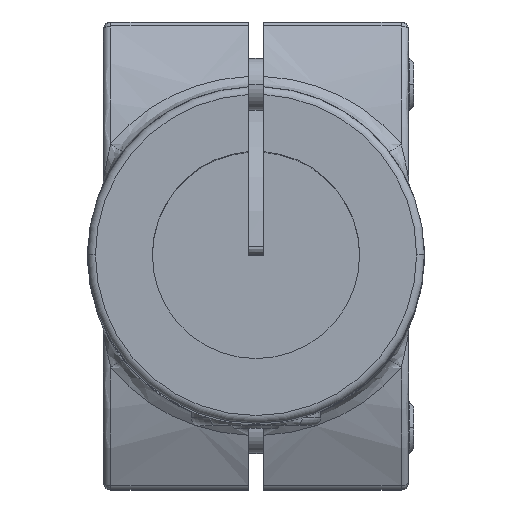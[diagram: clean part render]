
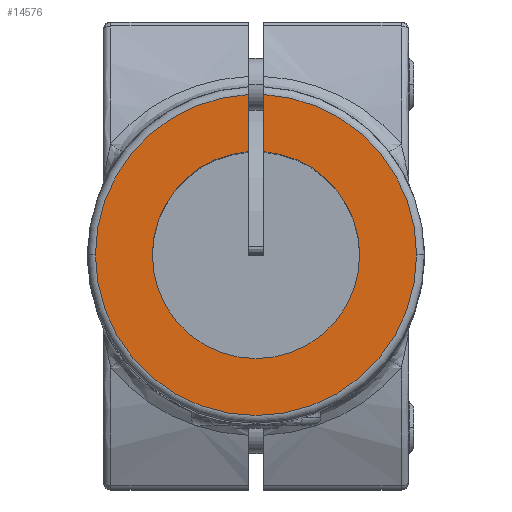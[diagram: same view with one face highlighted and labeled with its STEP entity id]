
A CAD part, top view. The second image highlights one B-rep face of the part: STEP entity #14576.
In plain terms, the highlighted planar face has unit normal (0, 0, 1) as drawn and (0, 0, -1) by its records, which use the part's own axes.
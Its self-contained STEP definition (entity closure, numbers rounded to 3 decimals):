
#93 = ORIENTED_EDGE ( 'NONE', *, *, #14840, .T. ) ;
#459 = FACE_OUTER_BOUND ( 'NONE', #15714, .T. ) ;
#463 = EDGE_CURVE ( 'NONE', #8751, #1594, #4274, .T. ) ;
#583 = ORIENTED_EDGE ( 'NONE', *, *, #12897, .F. ) ;
#612 = CARTESIAN_POINT ( 'NONE',  ( 0., 0., 0. ) ) ;
#1594 = VERTEX_POINT ( 'NONE', #5561 ) ;
#1637 = AXIS2_PLACEMENT_3D ( 'NONE', #8587, #9747, #6026 ) ;
#1842 = VERTEX_POINT ( 'NONE', #13325 ) ;
#2213 = CARTESIAN_POINT ( 'NONE',  ( 1.5, 0., 0. ) ) ;
#2691 = DIRECTION ( 'NONE',  ( -1., 0., 0. ) ) ;
#2697 = EDGE_CURVE ( 'NONE', #1842, #9998, #6098, .T. ) ;
#3073 = CARTESIAN_POINT ( 'NONE',  ( 0., 0., 0. ) ) ;
#3431 = CIRCLE ( 'NONE', #13167, 20. ) ;
#3570 = CIRCLE ( 'NONE', #12499, 31. ) ;
#3785 = EDGE_CURVE ( 'NONE', #5615, #9998, #3431, .T. ) ;
#3848 = AXIS2_PLACEMENT_3D ( 'NONE', #10876, #9748, #13526 ) ;
#4142 = DIRECTION ( 'NONE',  ( 0., 0., -1. ) ) ;
#4274 = CIRCLE ( 'NONE', #1637, 31. ) ;
#4447 = VERTEX_POINT ( 'NONE', #14863 ) ;
#4471 = CARTESIAN_POINT ( 'NONE',  ( 20., 0., 0. ) ) ;
#4551 = ORIENTED_EDGE ( 'NONE', *, *, #5990, .T. ) ;
#4963 = VECTOR ( 'NONE', #11628, 1000. ) ;
#5119 = VERTEX_POINT ( 'NONE', #11316 ) ;
#5176 = DIRECTION ( 'NONE',  ( 0., 0., 1. ) ) ;
#5373 = DIRECTION ( 'NONE',  ( 1., 0., 0. ) ) ;
#5436 = CIRCLE ( 'NONE', #3848, 20. ) ;
#5561 = CARTESIAN_POINT ( 'NONE',  ( -1.5, 30.964, 0. ) ) ;
#5593 = DIRECTION ( 'NONE',  ( 1., 0., 0. ) ) ;
#5615 = VERTEX_POINT ( 'NONE', #4471 ) ;
#5669 = DIRECTION ( 'NONE',  ( 0., 0., 1. ) ) ;
#5961 = VECTOR ( 'NONE', #14860, 1000. ) ;
#5990 = EDGE_CURVE ( 'NONE', #1842, #4447, #3570, .T. ) ;
#6026 = DIRECTION ( 'NONE',  ( 1., 0., 0. ) ) ;
#6098 = LINE ( 'NONE', #2213, #5961 ) ;
#6800 = ORIENTED_EDGE ( 'NONE', *, *, #7161, .T. ) ;
#7003 = AXIS2_PLACEMENT_3D ( 'NONE', #612, #5669, #5593 ) ;
#7161 = EDGE_CURVE ( 'NONE', #4447, #8751, #14928, .T. ) ;
#7922 = DIRECTION ( 'NONE',  ( 0., 0., -1. ) ) ;
#7929 = LINE ( 'NONE', #15204, #4963 ) ;
#8211 = CARTESIAN_POINT ( 'NONE',  ( -20., 0., 0. ) ) ;
#8587 = CARTESIAN_POINT ( 'NONE',  ( 0., 0., 0. ) ) ;
#8659 = ORIENTED_EDGE ( 'NONE', *, *, #3785, .T. ) ;
#8751 = VERTEX_POINT ( 'NONE', #9828 ) ;
#9182 = DIRECTION ( 'NONE',  ( 1., 0., 0. ) ) ;
#9747 = DIRECTION ( 'NONE',  ( 0., 0., -1. ) ) ;
#9748 = DIRECTION ( 'NONE',  ( 0., 0., 1. ) ) ;
#9828 = CARTESIAN_POINT ( 'NONE',  ( -31., 0., 0. ) ) ;
#9998 = VERTEX_POINT ( 'NONE', #14951 ) ;
#10010 = EDGE_CURVE ( 'NONE', #15758, #5615, #14493, .T. ) ;
#10779 = ORIENTED_EDGE ( 'NONE', *, *, #10010, .T. ) ;
#10876 = CARTESIAN_POINT ( 'NONE',  ( 0., 0., 0. ) ) ;
#10944 = AXIS2_PLACEMENT_3D ( 'NONE', #11709, #7922, #5373 ) ;
#11037 = AXIS2_PLACEMENT_3D ( 'NONE', #3073, #5176, #2691 ) ;
#11316 = CARTESIAN_POINT ( 'NONE',  ( -1.5, 19.944, 0. ) ) ;
#11413 = DIRECTION ( 'NONE',  ( 0., 0., 1. ) ) ;
#11628 = DIRECTION ( 'NONE',  ( 0., 1., 0. ) ) ;
#11709 = CARTESIAN_POINT ( 'NONE',  ( 0., 0., 0. ) ) ;
#11768 = ORIENTED_EDGE ( 'NONE', *, *, #2697, .F. ) ;
#12499 = AXIS2_PLACEMENT_3D ( 'NONE', #15461, #4142, #9182 ) ;
#12897 = EDGE_CURVE ( 'NONE', #5119, #1594, #7929, .T. ) ;
#13167 = AXIS2_PLACEMENT_3D ( 'NONE', #14944, #11413, #13833 ) ;
#13325 = CARTESIAN_POINT ( 'NONE',  ( 1.5, 30.964, 0. ) ) ;
#13526 = DIRECTION ( 'NONE',  ( -1., 0., 0. ) ) ;
#13673 = ORIENTED_EDGE ( 'NONE', *, *, #463, .T. ) ;
#13833 = DIRECTION ( 'NONE',  ( -1., 0., 0. ) ) ;
#14493 = CIRCLE ( 'NONE', #11037, 20. ) ;
#14576 = ADVANCED_FACE ( 'NONE', ( #459 ), #15655, .F. ) ;
#14840 = EDGE_CURVE ( 'NONE', #5119, #15758, #5436, .T. ) ;
#14860 = DIRECTION ( 'NONE',  ( 0., -1., 0. ) ) ;
#14863 = CARTESIAN_POINT ( 'NONE',  ( 31., 0., 0. ) ) ;
#14928 = CIRCLE ( 'NONE', #10944, 31. ) ;
#14944 = CARTESIAN_POINT ( 'NONE',  ( 0., 0., 0. ) ) ;
#14951 = CARTESIAN_POINT ( 'NONE',  ( 1.5, 19.944, 0. ) ) ;
#15204 = CARTESIAN_POINT ( 'NONE',  ( -1.5, 0., 0. ) ) ;
#15461 = CARTESIAN_POINT ( 'NONE',  ( 0., 0., 0. ) ) ;
#15655 = PLANE ( 'NONE',  #7003 ) ;
#15714 = EDGE_LOOP ( 'NONE', ( #11768, #4551, #6800, #13673, #583, #93, #10779, #8659 ) ) ;
#15758 = VERTEX_POINT ( 'NONE', #8211 ) ;
